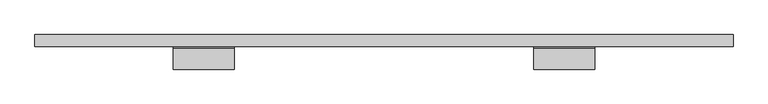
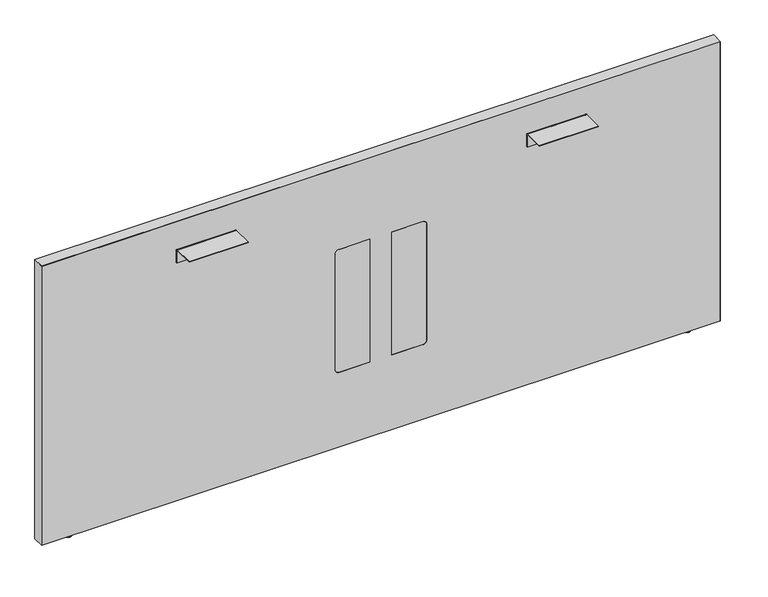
"""IFC4 building model written with IfcOpenShell, lengths in millimetres: furniture geometry, Steelcase - Answer Solution - Boundary Screen - Straight - Spanning : 30H x 69W."""

from ifc_helpers import new_model, si_unit, point, frame, frame_2d, origin, place, context, project, spatial, polyline, circle_curve, ellipse_curve, trimmed, segment, composite_curve, outline, extrude, source, transform, mapped, element, save
from ifc_brep_helpers import plane_surface, cylinder_surface, revolved_surface, advanced_brep


def furniture_75d3e546(model_context):
    return source(origin(), model_context, "Body", "SolidModel", [
        advanced_brep(
        [(-569.2902705, -14.8449166, 9.9059849), (-569.2902705, -5.9309607, 9.9059849), (-569.2902705, -23.7588726, 9.9059849), (-569.2902705, -5.9309607, 2.9673238), (-569.2902705, -23.7588726, 2.9673238), (-569.2902705, -6.8982978, 2.9673238), (-569.2902705, -22.7915354, 2.9673238), (-569.2902705, -6.8982978, 1.6569081), (-569.2902705, -22.7915354, 1.6569081), (-569.2902705, -8.5552059, 0.0), (-569.2902705, -21.1346274, 0.0), (-569.2902705, -14.8449166, 0.0)],
        [
            (0, 1),
            (1, 2, circle_curve(frame((-569.2902705, -14.8449166, 9.9059849), z_axis=(0.0, 0.0, 1.0), x_axis=(0.0, 1.0, 0.0)), 8.913956)),
            (2, 0),
            (2, 1, circle_curve(frame((-569.2902705, -14.8449166, 9.9059849), z_axis=(0.0, 0.0, 1.0), x_axis=(0.0, 1.0, 0.0)), 8.913956)),
            (1, 3),
            (3, 4, circle_curve(frame((-569.2902705, -14.8449166, 2.9673238), z_axis=(0.0, 0.0, 1.0), x_axis=(0.0, 1.0, 0.0)), 8.913956)),
            (4, 2),
            (4, 3, circle_curve(frame((-569.2902705, -14.8449166, 2.9673238), z_axis=(0.0, 0.0, 1.0), x_axis=(0.0, 1.0, 0.0)), 8.913956)),
            (3, 5),
            (5, 6, circle_curve(frame((-569.2902705, -14.8449166, 2.9673238), z_axis=(0.0, 0.0, 1.0), x_axis=(0.0, 1.0, 0.0)), 7.9466188)),
            (6, 4),
            (6, 5, circle_curve(frame((-569.2902705, -14.8449166, 2.9673238), z_axis=(0.0, 0.0, 1.0), x_axis=(0.0, 1.0, 0.0)), 7.9466188)),
            (5, 7),
            (7, 8, circle_curve(frame((-569.2902705, -14.8449166, 1.6569081), z_axis=(0.0, 0.0, 1.0), x_axis=(0.0, 1.0, 0.0)), 7.9466188)),
            (8, 6),
            (8, 7, circle_curve(frame((-569.2902705, -14.8449166, 1.6569081), z_axis=(0.0, 0.0, 1.0), x_axis=(0.0, 1.0, 0.0)), 7.9466188)),
            (7, 9, circle_curve(frame((-569.2902705, -8.5552059, 1.6569081), z_axis=(-1.0, 0.0, 0.0), x_axis=(0.0, 1.0, 0.0)), 1.6569081)),
            (9, 10, circle_curve(frame((-569.2902705, -14.8449166, 0.0), z_axis=(0.0, 0.0, 1.0), x_axis=(0.0, 1.0, 0.0)), 6.2897107)),
            (10, 8, circle_curve(frame((-569.2902705, -21.1346274, 1.6569081), z_axis=(-1.0, 0.0, 0.0), x_axis=(0.0, -1.0, 0.0)), 1.6569081)),
            (10, 9, circle_curve(frame((-569.2902705, -14.8449166, 0.0), z_axis=(0.0, 0.0, 1.0), x_axis=(0.0, 1.0, 0.0)), 6.2897107)),
            (9, 11),
            (11, 10),
        ],
        [
            plane_surface(frame((-569.2902705, -14.8449166, 9.9059849), z_axis=(0.0, 0.0, 1.0), x_axis=(0.0, 1.0, 0.0))),
            cylinder_surface(frame((-569.2902705, -14.8449166, 9.9059849), z_axis=(0.0, 0.0, 1.0), x_axis=(0.0, 1.0, 0.0)), 8.913956),
            plane_surface(frame((-569.2902705, -14.8449166, 2.9673238), z_axis=(0.0, 0.0, -1.0), x_axis=(0.0, 1.0, 0.0))),
            cylinder_surface(frame((-569.2902705, -14.8449166, 9.9059849), z_axis=(0.0, 0.0, 1.0), x_axis=(0.0, 1.0, 0.0)), 7.9466188),
            revolved_surface(trimmed(ellipse_curve(frame((-569.2902705, -8.5552059, 1.6569081), z_axis=(1.0, 0.0, 0.0), x_axis=(0.0, 1.0, 0.0)), 1.6569081, 1.6569081), [point((-569.2902705, -8.5552059, 0.0))], [point((-569.2902705, -6.8982978, 1.6569081))], True, "CARTESIAN"), (-569.2902705, -14.8449166, 9.9059849), (0.0, 0.0, 1.0)),
            plane_surface(frame((-569.2902705, -14.8449166, 0.0), z_axis=(0.0, 0.0, -1.0), x_axis=(0.0, 1.0, 0.0))),
        ],
        [
            (0, [[1, 2, 3]]),
            (0, [[-3, 4, -1]]),
            (1, [[-2, 5, 6, 7]]),
            (1, [[-4, -7, 8, -5]]),
            (2, [[-6, 9, 10, 11]]),
            (2, [[-8, -11, 12, -9]]),
            (3, [[-10, 13, 14, 15]]),
            (3, [[-12, -15, 16, -13]]),
            (4, [[-14, 17, 18, 19]]),
            (4, [[-16, -19, 20, -17]]),
            (5, [[-18, 21, 22]]),
            (5, [[-20, -22, -21]]),
        ],
    ),
        extrude(outline(composite_curve([segment(polyline([(-86.8398151, 696.4680019), (-86.8398151, 698.5), (-34.9450855, 698.5)]), True, "CONTINUOUS"), segment(trimmed(circle_curve(frame_2d((-34.9450855, 693.2447477)), 5.2552523), [point((-34.9450855, 698.5))], [point((-29.6898332, 693.2447477))], False, "CARTESIAN"), True, "CONTINUOUS"), segment(polyline([(-29.6898332, 693.2447477), (-29.6898332, 660.4), (-31.7218162, 660.4), (-31.7218162, 693.0058743)]), True, "CONTINUOUS"), segment(trimmed(circle_curve(frame_2d((-35.1839438, 693.0058743)), 3.4621276), [point((-31.7218162, 693.0058743))], [point((-35.1839438, 696.4680019))], True, "CARTESIAN"), True, "CONTINUOUS"), segment(polyline([(-35.1839438, 696.4680019), (-86.8398151, 696.4680019)]), True, "CONTINUOUS")], self_intersect=False)), frame((605.9282189, 0.0, 0.0), z_axis=(1.0, 0.0, 0.0), x_axis=(0.0, 1.0, 0.0)), (0.0, 0.0, 1.0), 152.4000969),
        extrude(outline(composite_curve([segment(polyline([(-86.8398151, 696.4680019), (-86.8398151, 698.5), (-34.9450855, 698.5)]), True, "CONTINUOUS"), segment(trimmed(circle_curve(frame_2d((-34.9450855, 693.2447477)), 5.2552523), [point((-34.9450855, 698.5))], [point((-29.6898332, 693.2447477))], False, "CARTESIAN"), True, "CONTINUOUS"), segment(polyline([(-29.6898332, 693.2447477), (-29.6898332, 660.4), (-31.7218162, 660.4), (-31.7218162, 693.0058743)]), True, "CONTINUOUS"), segment(trimmed(circle_curve(frame_2d((-35.1839438, 693.0058743)), 3.4621276), [point((-31.7218162, 693.0058743))], [point((-35.1839438, 696.4680019))], True, "CARTESIAN"), True, "CONTINUOUS"), segment(polyline([(-35.1839438, 696.4680019), (-86.8398151, 696.4680019)]), True, "CONTINUOUS")], self_intersect=False)), frame((-298.6884581, 0.0, 0.0), z_axis=(1.0, 0.0, 0.0), x_axis=(0.0, 1.0, 0.0)), (0.0, 0.0, 1.0), 152.4000969),
        advanced_brep(
        [(1028.9286488, -23.7588726, 9.9059849), (1028.9286488, -5.9309607, 9.9059849), (1028.9286488, -14.8449166, 9.9059849), (1028.9286488, -23.7588726, 2.9673238), (1028.9286488, -5.9309607, 2.9673238), (1028.9286488, -22.7915354, 2.9673238), (1028.9286488, -6.8982978, 2.9673238), (1028.9286488, -22.7915354, 1.6569081), (1028.9286488, -6.8982978, 1.6569081), (1028.9286488, -21.1346274, 0.0), (1028.9286488, -8.5552059, 0.0), (1028.9286488, -14.8449166, 0.0)],
        [
            (0, 1, circle_curve(frame((1028.9286488, -14.8449166, 9.9059849), z_axis=(0.0, 0.0, 1.0), x_axis=(0.0, 1.0, 0.0)), 8.913956)),
            (1, 2),
            (2, 0),
            (1, 0, circle_curve(frame((1028.9286488, -14.8449166, 9.9059849), z_axis=(0.0, 0.0, 1.0), x_axis=(0.0, 1.0, 0.0)), 8.913956)),
            (3, 4, circle_curve(frame((1028.9286488, -14.8449166, 2.9673238), z_axis=(0.0, 0.0, 1.0), x_axis=(0.0, 1.0, 0.0)), 8.913956)),
            (4, 1),
            (0, 3),
            (4, 3, circle_curve(frame((1028.9286488, -14.8449166, 2.9673238), z_axis=(0.0, 0.0, 1.0), x_axis=(0.0, 1.0, 0.0)), 8.913956)),
            (5, 6, circle_curve(frame((1028.9286488, -14.8449166, 2.9673238), z_axis=(0.0, 0.0, 1.0), x_axis=(0.0, 1.0, 0.0)), 7.9466188)),
            (6, 4),
            (3, 5),
            (6, 5, circle_curve(frame((1028.9286488, -14.8449166, 2.9673238), z_axis=(0.0, 0.0, 1.0), x_axis=(0.0, 1.0, 0.0)), 7.9466188)),
            (7, 8, circle_curve(frame((1028.9286488, -14.8449166, 1.6569081), z_axis=(0.0, 0.0, 1.0), x_axis=(0.0, 1.0, 0.0)), 7.9466188)),
            (8, 6),
            (5, 7),
            (8, 7, circle_curve(frame((1028.9286488, -14.8449166, 1.6569081), z_axis=(0.0, 0.0, 1.0), x_axis=(0.0, 1.0, 0.0)), 7.9466188)),
            (9, 10, circle_curve(frame((1028.9286488, -14.8449166, 0.0), z_axis=(0.0, 0.0, 1.0), x_axis=(0.0, 1.0, 0.0)), 6.2897107)),
            (10, 8, circle_curve(frame((1028.9286488, -8.5552059, 1.6569081), z_axis=(1.0, 0.0, 0.0), x_axis=(0.0, 1.0, 0.0)), 1.6569081)),
            (7, 9, circle_curve(frame((1028.9286488, -21.1346274, 1.6569081), z_axis=(1.0, 0.0, 0.0), x_axis=(0.0, -1.0, 0.0)), 1.6569081)),
            (10, 9, circle_curve(frame((1028.9286488, -14.8449166, 0.0), z_axis=(0.0, 0.0, 1.0), x_axis=(0.0, 1.0, 0.0)), 6.2897107)),
            (11, 10),
            (9, 11),
        ],
        [
            plane_surface(frame((1028.9286488, -14.8449166, 9.9059849), z_axis=(0.0, 0.0, 1.0), x_axis=(0.0, 1.0, 0.0))),
            cylinder_surface(frame((1028.9286488, -14.8449166, 9.9059849), z_axis=(0.0, 0.0, -1.0), x_axis=(0.0, 1.0, 0.0)), 8.913956),
            plane_surface(frame((1028.9286488, -14.8449166, 2.9673238), z_axis=(0.0, 0.0, -1.0), x_axis=(0.0, 1.0, 0.0))),
            cylinder_surface(frame((1028.9286488, -14.8449166, 9.9059849), z_axis=(0.0, 0.0, -1.0), x_axis=(0.0, 1.0, 0.0)), 7.9466188),
            revolved_surface(trimmed(ellipse_curve(frame((1028.9286488, -8.5552059, 1.6569081), z_axis=(-1.0, 0.0, 0.0), x_axis=(0.0, 1.0, 0.0)), 1.6569081, 1.6569081), [point((1028.9286488, -6.8982978, 1.6569081))], [point((1028.9286488, -8.5552059, 0.0))], True, "CARTESIAN"), (1028.9286488, -14.8449166, 9.9059849), (0.0, 0.0, -1.0)),
            plane_surface(frame((1028.9286488, -14.8449166, 0.0), z_axis=(0.0, 0.0, -1.0), x_axis=(0.0, 1.0, 0.0))),
        ],
        [
            (0, [[1, 2, 3]]),
            (0, [[4, -3, -2]]),
            (1, [[5, 6, -1, 7]]),
            (1, [[8, -7, -4, -6]]),
            (2, [[9, 10, -5, 11]]),
            (2, [[12, -11, -8, -10]]),
            (3, [[13, 14, -9, 15]]),
            (3, [[16, -15, -12, -14]]),
            (4, [[17, 18, -13, 19]]),
            (4, [[20, -19, -16, -18]]),
            (5, [[21, -17, 22]]),
            (5, [[-22, -20, -21]]),
        ],
    ),
        advanced_brep(
        [(1105.0780168, 0.0, 771.942118), (1105.0780168, 0.0, 9.9059849), (-645.4902221, 0.0, 9.9059849), (-645.4902221, 0.0, 771.942118), (1105.0780168, -29.6898332, 771.942118), (-645.4902221, -29.6898332, 771.942118), (-645.4902221, -29.6898332, 9.9059849), (1105.0780168, -29.6898332, 9.9059849), (337.7883813, -29.6898332, 549.6162029), (347.9483813, -29.6898332, 539.4562029), (347.9483813, -29.6898332, 223.9362137), (337.7883813, -29.6898332, 213.7762137), (258.1344836, -29.6898332, 213.7762137), (258.1344836, -29.6898332, 549.6162029), (121.849997, -29.6898332, 549.6162029), (201.5038947, -29.6898332, 549.6162029), (201.5038947, -29.6898332, 213.7762137), (121.849997, -29.6898332, 213.7762137), (111.689997, -29.6898332, 223.9362137), (111.689997, -29.6898332, 539.4562029), (258.1344836, -29.0550397, 549.6162029), (337.7883813, -29.0550397, 549.6162029), (258.1344836, -29.0550397, 213.7762137), (337.7883813, -29.0550397, 213.7762137), (347.9483813, -29.0550397, 223.9362137), (347.9483813, -29.0550397, 539.4562029), (121.849997, -29.0550397, 549.6162029), (111.689997, -29.0550397, 539.4562029), (111.689997, -29.0550397, 223.9362137), (121.849997, -29.0550397, 213.7762137), (201.5038947, -29.0550397, 213.7762137), (201.5038947, -29.0550397, 549.6162029)],
        [
            (0, 1),
            (1, 2),
            (2, 3),
            (3, 0),
            (4, 5),
            (5, 6),
            (6, 7),
            (7, 4),
            (8, 9, circle_curve(frame((337.7883813, -29.6898332, 539.4562029), z_axis=(0.0, 1.0, 0.0), x_axis=(0.0, 0.0, 1.0)), 10.16)),
            (9, 10),
            (10, 11, circle_curve(frame((337.7883813, -29.6898332, 223.9362137), z_axis=(0.0, 1.0, 0.0), x_axis=(0.0, 0.0, 1.0)), 10.16)),
            (11, 12),
            (12, 13),
            (13, 8),
            (14, 15),
            (15, 16),
            (16, 17),
            (17, 18, circle_curve(frame((121.849997, -29.6898332, 223.9362137), z_axis=(0.0, 1.0, 0.0), x_axis=(0.0, 0.0, 1.0)), 10.16)),
            (18, 19),
            (19, 14, circle_curve(frame((121.849997, -29.6898332, 539.4562029), z_axis=(0.0, 1.0, 0.0), x_axis=(0.0, 0.0, 1.0)), 10.16)),
            (0, 4),
            (7, 1),
            (6, 2),
            (5, 3),
            (13, 20),
            (20, 21),
            (21, 8),
            (12, 22),
            (22, 20),
            (11, 23),
            (23, 22),
            (10, 24),
            (24, 23, circle_curve(frame((337.7883813, -29.0550397, 223.9362137), z_axis=(0.0, 1.0, 0.0), x_axis=(0.0, 0.0, 1.0)), 10.16)),
            (9, 25),
            (25, 24),
            (21, 25, circle_curve(frame((337.7883813, -29.0550397, 539.4562029), z_axis=(0.0, 1.0, 0.0), x_axis=(0.0, 0.0, 1.0)), 10.16)),
            (26, 27, circle_curve(frame((121.849997, -29.0550397, 539.4562029), z_axis=(0.0, -1.0, 0.0), x_axis=(0.0, 0.0, 1.0)), 10.16)),
            (27, 28),
            (28, 29, circle_curve(frame((121.849997, -29.0550397, 223.9362137), z_axis=(0.0, -1.0, 0.0), x_axis=(0.0, 0.0, 1.0)), 10.16)),
            (29, 30),
            (30, 31),
            (31, 26),
            (19, 27),
            (26, 14),
            (18, 28),
            (17, 29),
            (16, 30),
            (15, 31),
        ],
        [
            plane_surface(frame((1105.0780168, 0.0, 771.942118), z_axis=(0.0, 1.0, 0.0), x_axis=(0.0, 0.0, -1.0))),
            plane_surface(frame((1105.0780168, -29.6898332, 771.942118), z_axis=(0.0, -1.0, 0.0), x_axis=(0.0, 0.0, 1.0))),
            plane_surface(frame((1105.0780168, 0.0, 771.942118), z_axis=(1.0, 0.0, 0.0), x_axis=(0.0, -1.0, 0.0))),
            plane_surface(frame((1105.0780168, 0.0, 9.9059849), z_axis=(0.0, 0.0, -1.0), x_axis=(0.0, -1.0, 0.0))),
            plane_surface(frame((-645.4902221, 0.0, 9.9059849), z_axis=(-1.0, 0.0, 0.0), x_axis=(0.0, -1.0, 0.0))),
            plane_surface(frame((-645.4902221, 0.0, 771.942118), z_axis=(0.0, 0.0, 1.0), x_axis=(0.0, -1.0, 0.0))),
            plane_surface(frame((337.7883813, 0.0, 549.6162029), z_axis=(0.0, 0.0, -1.0), x_axis=(0.0, -1.0, 0.0))),
            plane_surface(frame((258.1344836, 0.0, 549.6162029), z_axis=(1.0, 0.0, 0.0), x_axis=(0.0, -1.0, 0.0))),
            plane_surface(frame((258.1344836, 0.0, 213.7762137), z_axis=(0.0, 0.0, 1.0), x_axis=(0.0, -1.0, 0.0))),
            revolved_surface(polyline([(337.7883813, -29.6898332, 234.0962137), (337.7883813, -29.0550397, 234.0962137)]), (337.7883813, -29.6898332, 223.9362137), (0.0, -1.0, 0.0)),
            plane_surface(frame((347.9483813, 0.0, 223.9362137), z_axis=(-1.0, 0.0, 0.0), x_axis=(0.0, -1.0, 0.0))),
            revolved_surface(polyline([(337.7883813, -29.6898332, 549.6162029), (337.7883813, -29.0550397, 549.6162029)]), (337.7883813, -29.6898332, 539.4562029), (0.0, -1.0, 0.0)),
            plane_surface(frame((347.9483813, -29.0550397, 549.6162029), z_axis=(0.0, -1.0, 0.0), x_axis=(0.0, 0.0, 1.0))),
            revolved_surface(polyline([(121.849997, -29.6898332, 549.6162029), (121.849997, -29.0550397, 549.6162029)]), (121.849997, -29.6898332, 539.4562029), (0.0, -1.0, 0.0)),
            plane_surface(frame((111.689997, 0.0, 539.4562029), z_axis=(1.0, 0.0, 0.0), x_axis=(0.0, -1.0, 0.0))),
            revolved_surface(polyline([(121.849997, -29.6898332, 234.0962137), (121.849997, -29.0550397, 234.0962137)]), (121.849997, -29.6898332, 223.9362137), (0.0, -1.0, 0.0)),
            plane_surface(frame((121.849997, 0.0, 213.7762137), z_axis=(0.0, 0.0, 1.0), x_axis=(0.0, -1.0, 0.0))),
            plane_surface(frame((201.5038947, 0.0, 213.7762137), z_axis=(-1.0, 0.0, 0.0), x_axis=(0.0, -1.0, 0.0))),
            plane_surface(frame((201.5038947, 0.0, 549.6162029), z_axis=(0.0, 0.0, -1.0), x_axis=(0.0, -1.0, 0.0))),
        ],
        [
            (0, [[1, 2, 3, 4]]),
            (1, [[5, 6, 7, 8], [9, 10, 11, 12, 13, 14], [15, 16, 17, 18, 19, 20]]),
            (2, [[-1, 21, -8, 22]]),
            (3, [[-2, -22, -7, 23]]),
            (4, [[-3, -23, -6, 24]]),
            (5, [[-4, -24, -5, -21]]),
            (6, [[-14, 25, 26, 27]]),
            (7, [[-13, 28, 29, -25]]),
            (8, [[-12, 30, 31, -28]]),
            (9, [[-11, 32, 33, -30]]),
            (10, [[-10, 34, 35, -32]]),
            (11, [[-9, -27, 36, -34]]),
            (12, [[-26, -29, -31, -33, -35, -36]]),
            (12, [[37, 38, 39, 40, 41, 42]]),
            (13, [[-20, 43, -37, 44]]),
            (14, [[-19, 45, -38, -43]]),
            (15, [[-18, 46, -39, -45]]),
            (16, [[-17, 47, -40, -46]]),
            (17, [[-16, 48, -41, -47]]),
            (18, [[-15, -44, -42, -48]]),
        ],
    ),
        extrude(outline(composite_curve([segment(polyline([(549.6162029, 337.7883813), (549.6162029, 258.1344836), (213.7762137, 258.1344836), (213.7762137, 337.7883813)]), True, "CONTINUOUS"), segment(trimmed(circle_curve(frame_2d((223.9362137, 337.7883813)), 10.16), [point((213.7762137, 337.7883813))], [point((223.9362137, 347.9483813))], False, "CARTESIAN"), True, "CONTINUOUS"), segment(polyline([(223.9362137, 347.9483813), (539.4562029, 347.9483813)]), True, "CONTINUOUS"), segment(trimmed(circle_curve(frame_2d((539.4562029, 337.7883813)), 10.16), [point((539.4562029, 347.9483813))], [point((549.6162029, 337.7883813))], False, "CARTESIAN"), True, "CONTINUOUS")], self_intersect=False)), frame((0.0, -29.6898332, 0.0), z_axis=(0.0, 1.0, 0.0), x_axis=(0.0, 0.0, 1.0)), (0.0, 0.0, 1.0), 0.6347935),
        extrude(outline(composite_curve([segment(trimmed(circle_curve(frame_2d((539.4562029, 121.849997)), 10.16), [point((549.6162029, 121.849997))], [point((539.4562029, 111.689997))], False, "CARTESIAN"), True, "CONTINUOUS"), segment(polyline([(539.4562029, 111.689997), (223.9362137, 111.689997)]), True, "CONTINUOUS"), segment(trimmed(circle_curve(frame_2d((223.9362137, 121.849997)), 10.16), [point((223.9362137, 111.689997))], [point((213.7762137, 121.849997))], False, "CARTESIAN"), True, "CONTINUOUS"), segment(polyline([(213.7762137, 121.849997), (213.7762137, 201.5038947), (549.6162029, 201.5038947), (549.6162029, 121.849997)]), True, "CONTINUOUS")], self_intersect=False)), frame((0.0, -29.6898332, 0.0), z_axis=(0.0, 1.0, 0.0), x_axis=(0.0, 0.0, 1.0)), (0.0, 0.0, 1.0), 0.6347935),
        extrude(outline(polyline([(772.922, 1106.1191891), (772.922, -646.4808109), (9.9059849, -646.4808109), (9.9059849, -645.4902221), (771.942118, -645.4902221), (771.942118, 1105.0780168), (9.9059849, 1105.0780168), (9.9059849, 1106.1191891), (772.922, 1106.1191891)])), frame((0.0, -29.6898332, 0.0), z_axis=(0.0, 1.0, 0.0), x_axis=(0.0, 0.0, 1.0)), (0.0, 0.0, 1.0), 29.6898332),
    ])


if __name__ == "__main__":
    model = new_model("IFC4")
    model_context = context("Model", 3, world=origin())
    ifc_project = project(units=[si_unit("LENGTHUNIT", "METRE", prefix="MILLI")], contexts=[model_context])
    site = spatial("IfcSite", under=ifc_project)
    building = spatial("IfcBuilding", under=site)
    placement = place(None, origin())
    furniture_shape = furniture_75d3e546(model_context)
    element("IfcFurniture", 1, ObjectType="Steelcase - Answer Solution - Boundary Screen - Straight - Spanning : 30H x 69W", at=placement, inside=building, context=model_context, shape_type="MappedRepresentation", body=[
        mapped(furniture_shape, transform((0.0, 0.0, 0.0), x_axis=(1.0, 0.0, 0.0), y_axis=(0.0, 1.0, 0.0), z_axis=(0.0, 0.0, 1.0))),
    ])
    save(model, "model.ifc")
